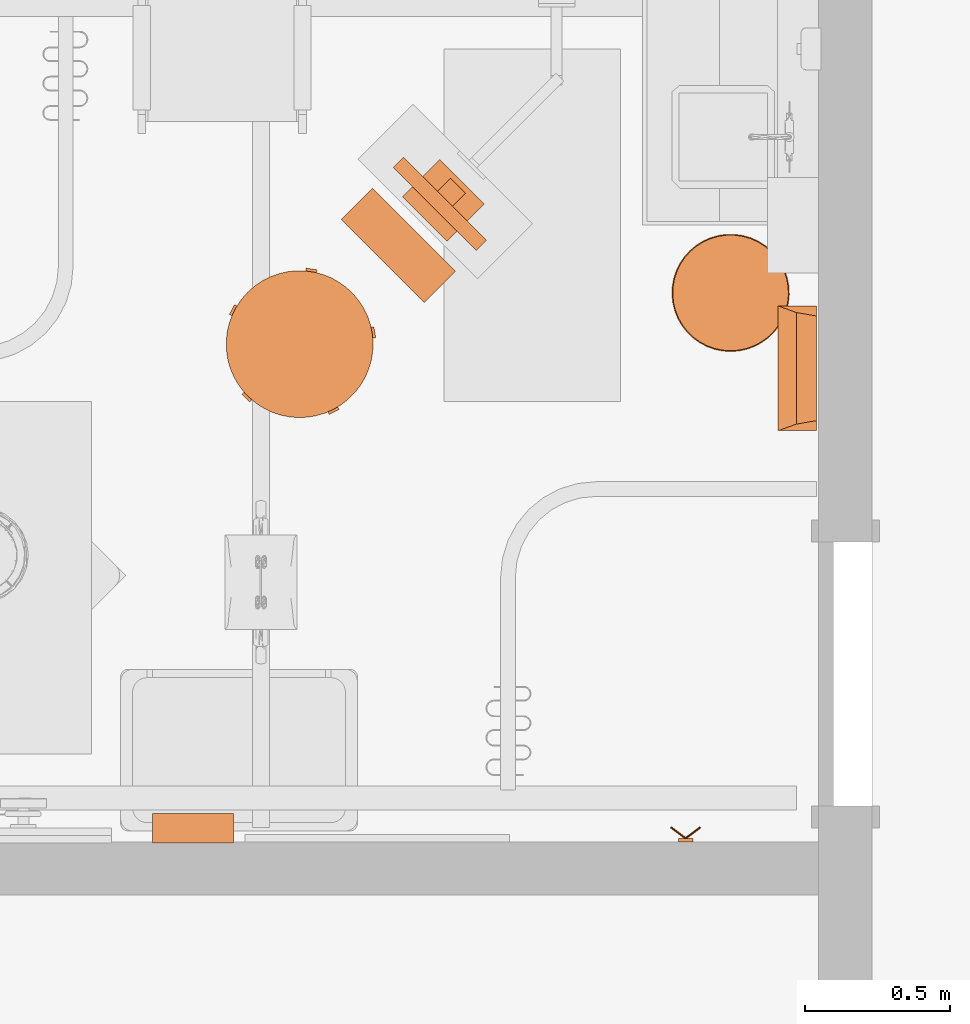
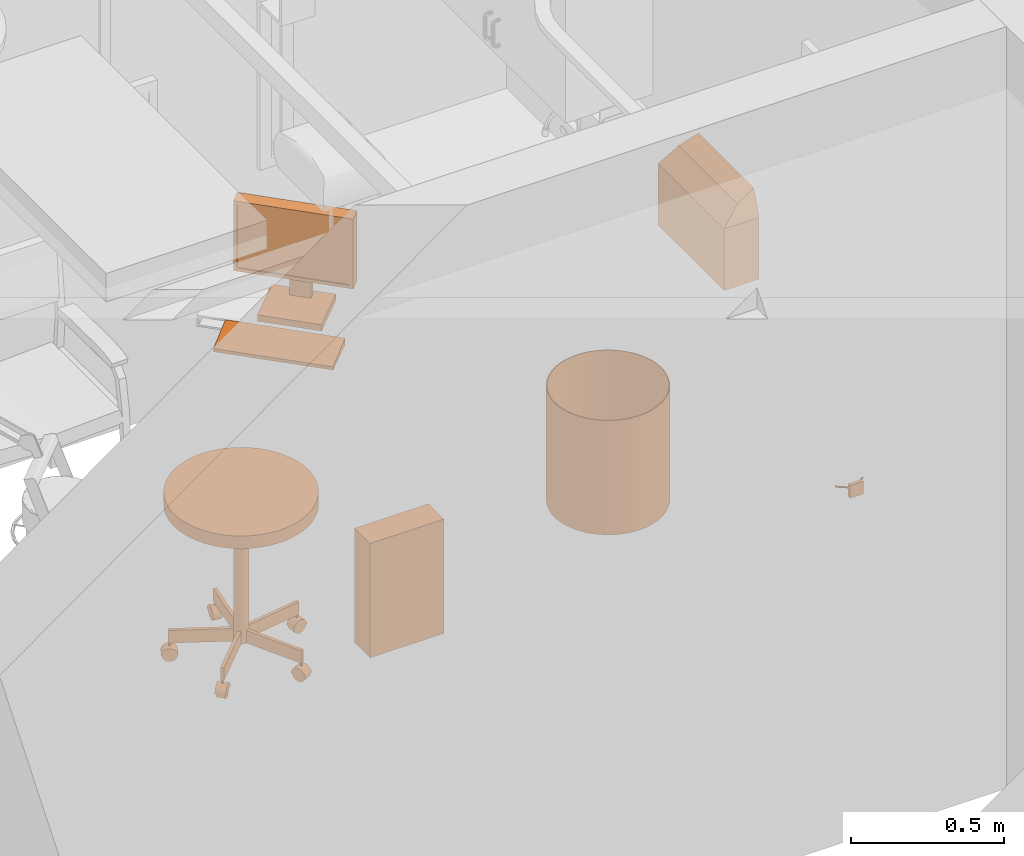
# One storey, part 119 of 142: 6 proxies.
"""IFC2X3 building model written with IfcOpenShell, lengths in feet."""

from ifc_helpers import new_model, entity, si_unit, converted_unit, derived_unit, direction, frame, frame_2d, origin, origin_2d_with_axis, place, context, subcontext, project, spatial, polyline, circle_curve, parameter, trimmed, segment, composite_curve, rectangle, circle, hollow_circle, outline, extrude, faceted_brep, source, transform, mapped, type_object, type_shapes, element, save


model = new_model("IFC2X3")

# Units and contexts
model_context = context("Model", 3, precision=0.0001, world=origin(), true_north=direction((6.12303176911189e-17, 1.0)))
body_context = subcontext(model_context, "Body", "Model", "MODEL_VIEW")
ifc_project = project(units=[converted_unit("LENGTHUNIT", "FOOT", entity("IfcRatioMeasure", 0.3048), si_unit("LENGTHUNIT", "METRE"), dimensions=[1, 0, 0, 0, 0, 0, 0]), converted_unit("AREAUNIT", "SQUARE FOOT", entity("IfcRatioMeasure", 0.09290304), si_unit("AREAUNIT", "SQUARE_METRE"), dimensions=[2, 0, 0, 0, 0, 0, 0]), converted_unit("VOLUMEUNIT", "CUBIC FOOT", entity("IfcRatioMeasure", 0.028316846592), si_unit("VOLUMEUNIT", "CUBIC_METRE"), dimensions=[3, 0, 0, 0, 0, 0, 0]), converted_unit("PLANEANGLEUNIT", "DEGREE", entity("IfcRatioMeasure", 0.0174532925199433), si_unit("PLANEANGLEUNIT", "RADIAN"), dimensions=[0, 0, 0, 0, 0, 0, 0]), si_unit("MASSUNIT", "GRAM", prefix="KILO"), derived_unit("MASSDENSITYUNIT", [(si_unit("MASSUNIT", "GRAM", prefix="KILO"), 1), (si_unit("LENGTHUNIT", "METRE"), -3)]), si_unit("TIMEUNIT", "SECOND"), si_unit("FREQUENCYUNIT", "HERTZ"), si_unit("THERMODYNAMICTEMPERATUREUNIT", "DEGREE_CELSIUS"), derived_unit("THERMALTRANSMITTANCEUNIT", [(si_unit("MASSUNIT", "GRAM", prefix="KILO"), 1), (si_unit("THERMODYNAMICTEMPERATUREUNIT", "KELVIN"), -1), (si_unit("TIMEUNIT", "SECOND"), -3)]), derived_unit("VOLUMETRICFLOWRATEUNIT", [(si_unit("LENGTHUNIT", "METRE"), 3), (si_unit("TIMEUNIT", "SECOND"), -1)]), si_unit("ELECTRICCURRENTUNIT", "AMPERE"), si_unit("ELECTRICVOLTAGEUNIT", "VOLT"), si_unit("POWERUNIT", "WATT"), si_unit("FORCEUNIT", "NEWTON"), si_unit("ILLUMINANCEUNIT", "LUX"), si_unit("LUMINOUSFLUXUNIT", "LUMEN"), si_unit("LUMINOUSINTENSITYUNIT", "CANDELA"), derived_unit("USERDEFINED", [(si_unit("MASSUNIT", "GRAM", prefix="KILO"), -1), (si_unit("LENGTHUNIT", "METRE"), -2), (si_unit("TIMEUNIT", "SECOND"), 3), (si_unit("LUMINOUSFLUXUNIT", "LUMEN"), 1)]), derived_unit("LINEARVELOCITYUNIT", [(si_unit("LENGTHUNIT", "METRE"), 1), (si_unit("TIMEUNIT", "SECOND"), -1)]), si_unit("PRESSUREUNIT", "PASCAL"), derived_unit("USERDEFINED", [(si_unit("LENGTHUNIT", "METRE"), -2), (si_unit("MASSUNIT", "GRAM", prefix="KILO"), 1), (si_unit("TIMEUNIT", "SECOND"), -2)])], contexts=[model_context])

# Site, building, storey, space
site_placement = place(None, origin())
site = spatial("IfcSite", under=ifc_project, at=site_placement, Name="Default", CompositionType="ELEMENT")
building_placement = place(site_placement, origin())
building = spatial("IfcBuilding", under=site, at=building_placement, Name="OUTPATIENT / PACT CLINIC (Ch. 265)", CompositionType="ELEMENT")
storey_placement = place(building_placement, origin())
storey = spatial("IfcBuildingStorey", under=building, at=storey_placement, Name="LEVEL 1", CompositionType="ELEMENT", Elevation=0.0)
space_placement = place(storey_placement, origin())
space = spatial("IfcSpace", under=storey, at=space_placement, Name="EXPA01", CompositionType="ELEMENT", InteriorOrExteriorSpace="INTERNAL")

# Proxies
building_element_proxy_type_1 = type_object("IfcBuildingElementProxyType", Name="F2000 - Basket, Wastepaper", PredefinedType="NOTDEFINED")
shared_shape_1 = source(origin(), body_context, "Body", "SweptSolid", [
    extrude(circle(Radius=0.666666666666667, at=frame_2d((0.0, -1.07702971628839e-15), x_axis=(1.0, 0.0))), origin(), (0.0, 0.0, 1.0), 0.0104166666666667),
    extrude(hollow_circle(Radius=0.666666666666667, WallThickness=0.0104166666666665, at=frame_2d((0.0, -1.07702971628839e-15), x_axis=(1.0, 0.0))), frame((0.0, 0.0, 0.0104166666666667)), (0.0, 0.0, 1.0), 1.48958333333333),
])
type_shapes(building_element_proxy_type_1, [shared_shape_1])
proxy_1_placement = place(space_placement, frame((402.463309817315, -890.79368882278, 0.0), z_axis=(0.0, 0.0, 1.0), x_axis=(0.0, -1.0, 0.0)))
element("IfcBuildingElementProxy", 1, at=proxy_1_placement, inside=space, type_object=building_element_proxy_type_1, Name="F2000 - Basket, Wastepaper:F2000 - Basket, Wastepaper", ObjectType="F2000 - Basket, Wastepaper", context=body_context, shape_type="MappedRepresentation", body=[
    mapped(shared_shape_1, transform((0.0, 0.0, 0.0), scale=1.0)),
])
building_element_proxy_type_2 = type_object("IfcBuildingElementProxyType", Name="A5108 - Waste Disposal Unit, Sharps 17\"x 13\"", PredefinedType="NOTDEFINED")
shared_shape_2 = source(origin(), body_context, "Body", "Brep", [
    faceted_brep([(0.70833333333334, 0.0, 0.0), (-0.708333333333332, 0.0, 0.0), (-0.708333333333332, 0.437500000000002, 0.0), (0.70833333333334, 0.437500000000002, 0.0), (0.70833333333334, 0.437500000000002, 0.810989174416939), (0.70833333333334, 0.0025667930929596, 0.810989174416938), (0.70833333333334, 0.0, 0.808422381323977), (-0.708333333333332, 0.437500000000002, 0.810989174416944), (-0.594042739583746, 0.437500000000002, 1.125), (0.594042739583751, 0.437500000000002, 1.125), (-0.708333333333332, 0.0, 0.808422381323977), (-0.708333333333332, 0.00256679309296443, 0.810989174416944), (0.632497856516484, 0.210923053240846, 1.01934543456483), (-0.632497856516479, 0.210923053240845, 1.01934543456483)], [[[0, 1, 2, 3]], [[0, 3, 4, 5, 6]], [[3, 2, 7, 8, 9, 4]], [[2, 1, 10, 11, 7]], [[1, 0, 6, 10]], [[10, 6, 5, 12, 13, 11]], [[12, 9, 8, 13]], [[5, 4, 9, 12]], [[8, 7, 11, 13]]]),
])
type_shapes(building_element_proxy_type_2, [shared_shape_2])
proxy_2_placement = place(storey_placement, frame((402.999768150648, -891.649686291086, 3.5), z_axis=(0.0, 0.0, 1.0), x_axis=(0.0, -1.0, 0.0)))
element("IfcBuildingElementProxy", 2, at=proxy_2_placement, inside=storey, type_object=building_element_proxy_type_2, Name="A5108 - Waste Disposal Unit, Sharps1:A5108 - Waste Disposal Unit, Sharps 17\"x 13\"", ObjectType="A5108 - Waste Disposal Unit, Sharps 17\"x 13\"", context=body_context, shape_type="MappedRepresentation", body=[
    mapped(shared_shape_2, transform((0.0, 0.0, 0.0), scale=1.0)),
])
building_element_proxy_type_3 = type_object("IfcBuildingElementProxyType", Name="M1801 - Computer with Flat Panel Monitor", PredefinedType="NOTDEFINED")
shared_shape_3 = source(origin(), body_context, "Body", "Brep", [
    faceted_brep([(0.666666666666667, -0.5625, 0.0), (0.666666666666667, -0.0624999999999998, 0.0), (0.666666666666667, -0.0624999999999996, 0.0833333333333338), (0.666666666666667, -0.5625, 0.0416666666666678), (-0.666666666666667, -0.5625, 0.0), (-0.666666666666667, -0.5625, 0.0416666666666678), (-0.666666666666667, -0.0624999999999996, 0.0833333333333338), (-0.666666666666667, -0.0624999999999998, 0.0)], [[[0, 1, 2, 3]], [[4, 5, 6, 7]], [[1, 0, 4, 7]], [[2, 1, 7, 6]], [[3, 2, 6, 5]], [[0, 3, 5, 4]]]),
    faceted_brep([(0.666666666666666, 0.437223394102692, 1.41666666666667), (-0.666666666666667, 0.437223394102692, 1.41666666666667), (-0.666666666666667, 0.271109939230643, 1.41666666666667), (0.666666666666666, 0.271109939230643, 1.41666666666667), (0.666666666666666, 0.437223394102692, 0.500000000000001), (0.666666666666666, 0.271109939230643, 0.500000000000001), (-0.666666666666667, 0.271109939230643, 0.500000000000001), (-0.666666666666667, 0.437223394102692, 0.500000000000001), (-0.625, 0.271109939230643, 1.375), (0.625, 0.271109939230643, 1.375), (0.625, 0.271109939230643, 0.541666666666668), (-0.625, 0.271109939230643, 0.541666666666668), (0.625, 0.286812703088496, 1.375), (-0.625, 0.286812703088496, 1.375), (0.625, 0.286812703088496, 0.541666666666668), (-0.625, 0.286812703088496, 0.541666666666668)], [[[0, 1, 2, 3]], [[4, 5, 6, 7]], [[1, 0, 4, 7]], [[2, 1, 7, 6]], [[3, 2, 6, 5], [8, 9, 10, 11]], [[0, 3, 5, 4]], [[12, 9, 8, 13]], [[14, 15, 11, 10]], [[12, 13, 15, 14]], [[13, 8, 11, 15]], [[9, 12, 14, 10]]]),
    faceted_brep([(0.358011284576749, 0.111770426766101, 0.0833333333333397), (0.358011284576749, 0.111770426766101, 0.0), (0.358011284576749, 0.708333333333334, 0.0), (0.358011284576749, 0.708333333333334, 0.0833333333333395), (-0.358011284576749, 0.708333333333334, 0.0833333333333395), (-0.358011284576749, 0.708333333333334, 0.0), (-0.358011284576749, 0.111770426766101, 0.0), (-0.358011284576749, 0.111770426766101, 0.0833333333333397), (0.12128795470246, 0.645556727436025, 0.104166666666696), (0.12128795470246, 0.645556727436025, 0.0833333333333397), (-0.12128795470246, 0.645556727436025, 0.0833333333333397), (-0.12128795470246, 0.645556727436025, 0.104166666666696), (0.12128795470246, 0.645556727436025, 0.958333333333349), (-0.12128795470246, 0.645556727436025, 0.958333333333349), (0.12128795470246, 0.437223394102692, 0.958333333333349), (-0.12128795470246, 0.437223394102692, 0.958333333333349), (0.12128795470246, 0.437223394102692, 0.791666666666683), (-0.12128795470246, 0.437223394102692, 0.791666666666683), (0.12128795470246, 0.562223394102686, 0.791666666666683), (-0.12128795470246, 0.562223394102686, 0.791666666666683), (0.12128795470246, 0.562223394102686, 0.0833333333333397), (-0.12128795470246, 0.562223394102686, 0.0833333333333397)], [[[0, 1, 2, 3]], [[4, 5, 6, 7]], [[8, 9, 10, 11]], [[12, 8, 11, 13]], [[14, 12, 13, 15]], [[16, 14, 15, 17]], [[18, 16, 17, 19]], [[20, 18, 19, 21]], [[0, 3, 4, 7], [9, 20, 21, 10]], [[1, 0, 7, 6]], [[2, 1, 6, 5]], [[3, 2, 5, 4]], [[20, 9, 8, 12, 14, 16, 18]], [[10, 21, 19, 17, 15, 13, 11]]]),
])
type_shapes(building_element_proxy_type_3, [shared_shape_3])
proxy_3_placement = place(space_placement, frame((398.914565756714, -890.033847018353, 2.9791666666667), z_axis=(0.0, 0.0, 1.0), x_axis=(0.707106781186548, -0.707106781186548, 0.0)))
element("IfcBuildingElementProxy", 3, at=proxy_3_placement, inside=space, type_object=building_element_proxy_type_3, Name="M1801 - Computer with Flat Panel Monitor1:M1801 - Computer with Flat Panel Monitor", ObjectType="M1801 - Computer with Flat Panel Monitor", context=body_context, shape_type="MappedRepresentation", body=[
    mapped(shared_shape_3, transform((0.0, 0.0, 0.0), scale=1.0)),
])
building_element_proxy_type_4 = type_object("IfcBuildingElementProxyType", Name="F0340 - Stool, Self Adjusting", PredefinedType="NOTDEFINED")
shared_shape_4 = source(origin(), body_context, "Body", "SweptSolid", [
    extrude(circle(Radius=0.084518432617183, at=frame_2d((0.0, -1.38777878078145e-16), x_axis=(1.0, 0.0))), frame((0.717011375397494, 0.287734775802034, 0.0845184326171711), z_axis=(0.309016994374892, -0.951056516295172, 0.0), x_axis=(-0.951056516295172, -0.309016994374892, 0.0)), (0.0, 0.0, 1.0), 0.104166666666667),
    extrude(outline(composite_curve([segment(polyline([(-0.0925649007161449, 0.0), (0.0925649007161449, 0.0)]), True, "CONTINUOUS"), segment(trimmed(circle_curve(origin_2d_with_axis(), 0.0925649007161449), [parameter(2.03555499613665e-13)], [parameter(180.0)], True, "PARAMETER"), True, "CONTINUOUS")], self_intersect=False)), frame((0.752419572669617, 0.178759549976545, 0.0845184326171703), z_axis=(-0.309016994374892, 0.951056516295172, 0.0), x_axis=(-0.951056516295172, -0.309016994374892, 0.0)), (0.0, 0.0, 1.0), 0.125),
    extrude(circle(Radius=0.0115130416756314, at=frame_2d((7.9106571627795e-18, 1.14165428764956e-16), x_axis=(1.0, 0.0))), frame((0.73310678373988, 0.238198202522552, 0.177083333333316), z_axis=(0.0, 0.0, 1.0), x_axis=(0.309016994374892, -0.951056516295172, 0.0)), (0.0, 0.0, 1.0), 0.0442708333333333),
    extrude(rectangle(XDim=0.0416641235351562, YDim=0.7059128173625, at=frame_2d((1.38777878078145e-17, 0.0), x_axis=(1.0, 0.0))), frame((0.412570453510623, 0.134049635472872, 0.221354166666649), z_axis=(0.0, 0.0, 1.0), x_axis=(-0.309016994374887, 0.951056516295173, 0.0)), (0.0, 0.0, 1.0), 0.166666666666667),
    extrude(circle(Radius=0.084518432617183, at=frame_2d((0.0, -3.7470027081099e-16), x_axis=(1.0, 0.0))), frame((0.410948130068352, -0.654231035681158, 0.0845184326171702), z_axis=(0.809016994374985, 0.587785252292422, 0.0), x_axis=(-0.587785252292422, 0.809016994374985, 0.0)), (0.0, 0.0, 1.0), 0.104166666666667),
    extrude(outline(composite_curve([segment(polyline([(-0.0925649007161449, 0.0), (0.0925649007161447, 0.0)]), True, "CONTINUOUS"), segment(trimmed(circle_curve(origin_2d_with_axis(), 0.0925649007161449), [parameter(2.03555499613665e-13)], [parameter(180.0)], True, "PARAMETER"), True, "CONTINUOUS")], self_intersect=False)), frame((0.402520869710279, -0.660353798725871, 0.0845184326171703), z_axis=(0.809016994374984, 0.587785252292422, 0.0), x_axis=(-0.587785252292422, 0.809016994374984, 0.0)), (0.0, 0.0, 1.0), 0.125),
    extrude(circle(Radius=0.0115130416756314, at=origin_2d_with_axis()), frame((0.453082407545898, -0.623618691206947, 0.177083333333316), z_axis=(0.0, 0.0, 1.0), x_axis=(-0.809016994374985, -0.587785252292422, 0.0)), (0.0, 0.0, 1.0), 0.0442708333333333),
    extrude(rectangle(XDim=0.0416641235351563, YDim=0.705912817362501, at=frame_2d((0.0, -1.38777878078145e-16), x_axis=(1.0, 0.0))), frame((0.254980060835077, -0.350954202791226, 0.221354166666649), z_axis=(0.0, 0.0, 1.0), x_axis=(0.809016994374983, 0.587785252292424, 0.0)), (0.0, 0.0, 1.0), 0.166666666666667),
    extrude(circle(Radius=0.084518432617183, at=frame_2d((-3.2628636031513e-17, -1.38777878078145e-16), x_axis=(1.0, 0.0))), frame((-0.410948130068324, -0.654231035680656, 0.0845184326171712), z_axis=(-0.809016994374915, 0.587785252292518, 0.0), x_axis=(0.587785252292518, 0.809016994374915, 0.0)), (0.0, 0.0, 1.0), 0.104166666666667),
    extrude(outline(composite_curve([segment(trimmed(circle_curve(origin_2d_with_axis(), 0.0925649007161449), [parameter(180.0)], [parameter(360.0)], True, "PARAMETER"), True, "CONTINUOUS"), segment(polyline([(0.0925649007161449, 0.0), (-0.0925649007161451, 0.0)]), True, "CONTINUOUS")], self_intersect=False)), frame((-0.402520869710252, -0.66035379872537, 0.0845184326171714), z_axis=(-0.809016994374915, 0.587785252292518, 0.0), x_axis=(0.587785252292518, 0.809016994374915, 0.0)), (0.0, 0.0, 1.0), 0.125),
    extrude(circle(Radius=0.0115130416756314, at=frame_2d((-4.49094647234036e-17, -3.2628636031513e-17), x_axis=(1.0, 0.0))), frame((-0.453086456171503, -0.623615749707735, 0.177083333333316), z_axis=(0.0, 0.0, 1.0), x_axis=(-0.809016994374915, 0.587785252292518, 0.0)), (0.0, 0.0, 1.0), 0.0442708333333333),
    extrude(rectangle(XDim=0.0416641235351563, YDim=0.7059128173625, at=frame_2d((-4.16333634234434e-17, 5.55111512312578e-17), x_axis=(1.0, 0.0))), frame((-0.254984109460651, -0.350951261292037, 0.221354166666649), z_axis=(0.0, 0.0, 1.0), x_axis=(0.809016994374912, -0.587785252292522, 0.0)), (0.0, 0.0, 1.0), 0.166666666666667),
    extrude(circle(Radius=0.084518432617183, at=frame_2d((0.0, -1.38777878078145e-16), x_axis=(1.0, 0.0))), frame((-0.749200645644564, 0.188666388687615, 0.0845184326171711), z_axis=(0.309016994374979, 0.951056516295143, 0.0), x_axis=(0.951056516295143, -0.309016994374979, 0.0)), (0.0, 0.0, 1.0), 0.104166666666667),
    extrude(outline(composite_curve([segment(trimmed(circle_curve(origin_2d_with_axis(), 0.0925649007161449), [parameter(180.0)], [parameter(360.0)], True, "PARAMETER"), True, "CONTINUOUS"), segment(polyline([(0.0925649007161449, 0.0), (-0.0925649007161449, 0.0)]), True, "CONTINUOUS")], self_intersect=False)), frame((-0.752419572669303, 0.178759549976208, 0.0845184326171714), z_axis=(0.309016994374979, 0.951056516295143, 0.0), x_axis=(0.951056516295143, -0.309016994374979, 0.0)), (0.0, 0.0, 1.0), 0.125),
    extrude(circle(Radius=0.0115130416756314, at=frame_2d((7.91065716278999e-18, -1.14165428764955e-16), x_axis=(1.0, 0.0))), frame((-0.733105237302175, 0.238202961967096, 0.177083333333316), z_axis=(0.0, 0.0, 1.0), x_axis=(0.309016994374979, 0.951056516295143, 0.0)), (0.0, 0.0, 1.0), 0.0442708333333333),
    extrude(rectangle(XDim=0.0416641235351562, YDim=0.7059128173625, at=origin_2d_with_axis()), frame((-0.412568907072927, 0.134054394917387, 0.221354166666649), z_axis=(0.0, 0.0, 1.0), x_axis=(-0.309016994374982, -0.951056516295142, 0.0)), (0.0, 0.0, 1.0), 0.166666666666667),
    extrude(circle(Radius=0.084518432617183, at=frame_2d((-1.76415182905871e-31, -1.38777878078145e-16), x_axis=(1.0, 0.0))), frame((-0.0520833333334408, 0.770833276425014, 0.0845184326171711), z_axis=(1.0, 0.0, 0.0), x_axis=(0.0, -1.0, 0.0)), (0.0, 0.0, 1.0), 0.104166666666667),
    extrude(outline(composite_curve([segment(trimmed(circle_curve(origin_2d_with_axis(), 0.0925649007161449), [parameter(180.0)], [parameter(360.0)], True, "PARAMETER"), True, "CONTINUOUS"), segment(polyline([(0.0925649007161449, 0.0), (-0.0925649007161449, 0.0)]), True, "CONTINUOUS")], self_intersect=False)), frame((-0.0625000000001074, 0.770833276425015, 0.0845184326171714), z_axis=(1.0, 0.0, 0.0), x_axis=(0.0, -1.0, 0.0)), (0.0, 0.0, 1.0), 0.125),
    extrude(circle(Radius=0.0115130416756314, at=frame_2d((7.04731412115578e-19, 1.79171670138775e-32), x_axis=(1.0, 0.0))), frame((2.50218814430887e-06, 0.770833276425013, 0.177083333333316)), (0.0, 0.0, 1.0), 0.0442708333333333),
    extrude(rectangle(XDim=0.0416641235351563, YDim=0.7059128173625, at=frame_2d((3.46944695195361e-18, 5.55111512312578e-17), x_axis=(1.0, 0.0))), frame((2.50218813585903e-06, 0.433801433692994, 0.221354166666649), z_axis=(0.0, 0.0, 1.0), x_axis=(-1.0, 0.0, 0.0)), (0.0, 0.0, 1.0), 0.166666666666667),
    extrude(circle(Radius=0.0834863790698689, at=frame_2d((2.89333175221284e-18, -1.34875966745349e-16), x_axis=(1.0, 0.0))), frame((0.0, 0.0, 0.221354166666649)), (0.0, 0.0, 1.0), 1.77864583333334),
    extrude(circle(Radius=0.833333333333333, at=frame_2d((2.28760446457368e-17, -1.34628714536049e-15), x_axis=(1.0, 0.0))), frame((0.0, 0.0, 2.0)), (0.0, 0.0, 1.0), 0.166666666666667),
])
type_shapes(building_element_proxy_type_4, [shared_shape_4])
proxy_4_placement = place(space_placement, frame((397.573053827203, -891.375358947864, 0.0), z_axis=(0.0, 0.0, 1.0), x_axis=(-0.707106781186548, 0.707106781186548, 0.0)))
element("IfcBuildingElementProxy", 4, at=proxy_4_placement, inside=space, type_object=building_element_proxy_type_4, Name="F0340 - Stool, Self Adjusting:F0340 - Stool, Self Adjusting", ObjectType="F0340 - Stool, Self Adjusting", context=body_context, shape_type="MappedRepresentation", body=[
    mapped(shared_shape_4, transform((0.0, 0.0, 0.0), scale=1.0)),
])
building_element_proxy_type_5 = type_object("IfcBuildingElementProxyType", Name="A5145 - Hook, Garment, Double", PredefinedType="NOTDEFINED")
shared_shape_5 = source(origin(), body_context, "Body", "SweptSolid", [
    extrude(circle(Radius=0.0105952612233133, at=frame_2d((-1.64551454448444e-31, -4.16333634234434e-17), x_axis=(1.0, 0.0))), frame((-0.169086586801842, -0.168481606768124, 0.0833333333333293), z_axis=(0.799999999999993, 0.60000000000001, 0.0), x_axis=(0.60000000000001, -0.799999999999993, 0.0)), (0.0, 0.0, 1.0), 0.211358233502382),
    extrude(circle(Radius=0.0105952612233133, at=frame_2d((5.2041704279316e-19, 2.77555756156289e-17), x_axis=(1.0, 0.0))), frame((0.0, -0.0416666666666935, 0.083333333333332), z_axis=(0.799999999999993, -0.60000000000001, 0.0), x_axis=(-0.60000000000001, -0.799999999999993, 0.0)), (0.0, 0.0, 1.0), 0.211358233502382),
    extrude(rectangle(XDim=0.0416666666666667, YDim=0.166666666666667, at=origin_2d_with_axis()), frame((0.0, -0.0208333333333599, 0.0), z_axis=(0.0, 0.0, 1.0), x_axis=(0.0, 1.0, 0.0)), (0.0, 0.0, 1.0), 0.166666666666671),
])
type_shapes(building_element_proxy_type_5, [shared_shape_5])
proxy_5_placement = place(space_placement, frame((401.952893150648, -897.024686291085, 4.0), z_axis=(0.0, 0.0, 1.0), x_axis=(-1.0, 0.0, 0.0)))
element("IfcBuildingElementProxy", 5, at=proxy_5_placement, inside=space, type_object=building_element_proxy_type_5, Name="A5145 - Hook, Garment, Double:A5145 - Hook, Garment, Double", ObjectType="A5145 - Hook, Garment, Double", context=body_context, shape_type="MappedRepresentation", body=[
    mapped(shared_shape_5, transform((0.0, 0.0, 0.0), scale=1.0)),
])
building_element_proxy_type_6 = type_object("IfcBuildingElementProxyType", Name="A5107 - Dispenser, Glove, Surgical-Examination, Wall Mntd 10\"x 4\"", PredefinedType="NOTDEFINED")
shared_shape_6 = source(origin(), body_context, "Body", "SweptSolid", [
    extrude(rectangle(XDim=0.333333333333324, YDim=0.916666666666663, at=frame_2d((-1.38777878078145e-17, 0.0), x_axis=(1.0, 0.0))), frame((0.0, 0.166666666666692, 0.0), z_axis=(0.0, 0.0, 1.0), x_axis=(0.0, 1.0, 0.0)), (0.0, 0.0, 1.0), 1.5),
])
type_shapes(building_element_proxy_type_6, [shared_shape_6])
proxy_6_placement = place(space_placement, frame((396.364351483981, -897.03443102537, 4.0)))
element("IfcBuildingElementProxy", 6, at=proxy_6_placement, inside=space, type_object=building_element_proxy_type_6, Name="A5107 - Dispenser, Glove, Surgical-Examination, Wall Mntd1:A5107 - Dispenser, Glove, Surgical-Examination, Wall Mntd 10\"x 4\"", ObjectType="A5107 - Dispenser, Glove, Surgical-Examination, Wall Mntd 10\"x 4\"", context=body_context, shape_type="MappedRepresentation", body=[
    mapped(shared_shape_6, transform((0.0, 0.0, 0.0), scale=1.0)),
])

save(model, "model.ifc")
